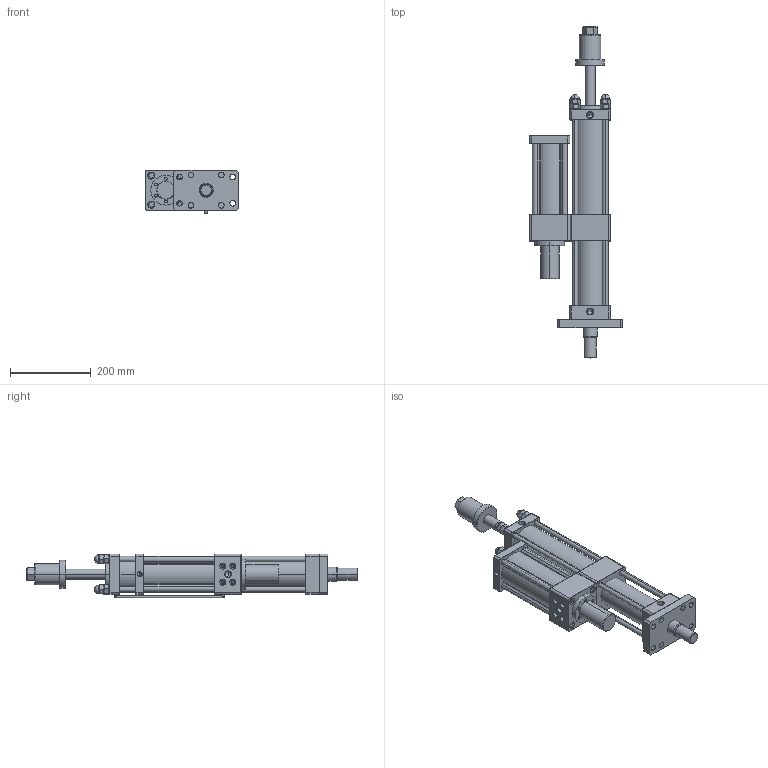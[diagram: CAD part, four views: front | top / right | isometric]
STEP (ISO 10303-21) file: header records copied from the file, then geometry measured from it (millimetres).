
FILE_DESCRIPTION (( 'STEP AP203' ), '1' );
FILE_NAME ('MPTD-63-100-10-3T.STEP', '2016-03-17T10:29:59', ( 'WIN' ), ( '' ), 'SwSTEP 2.0', 'SolidWorks 2014', '' );
FILE_SCHEMA (( 'CONFIG_CONTROL_DESIGN' ));
Length unit declared in the file: millimetre
Products named in the file (1): MPTD-63-100-10-3T
Bounding box: 230 x 823 x 109 mm (x, y, z)
Volume: 3710659.8 mm3; surface area: 753162.1 mm2
Topology: 1 solids, 8 shells, 731 faces, 1717 edges, 1063 vertices
Faces by surface type: plane 394, cylinder 225, cone 56, torus 32, bspline 24
Entity records: 21798 total; most frequent: CARTESIAN_POINT 4946, DIRECTION 3605, ORIENTED_EDGE 3382, EDGE_CURVE 1691, AXIS2_PLACEMENT_3D 1322, VERTEX_POINT 1063, LINE 961, VECTOR 961
